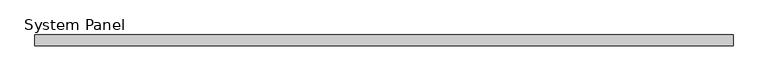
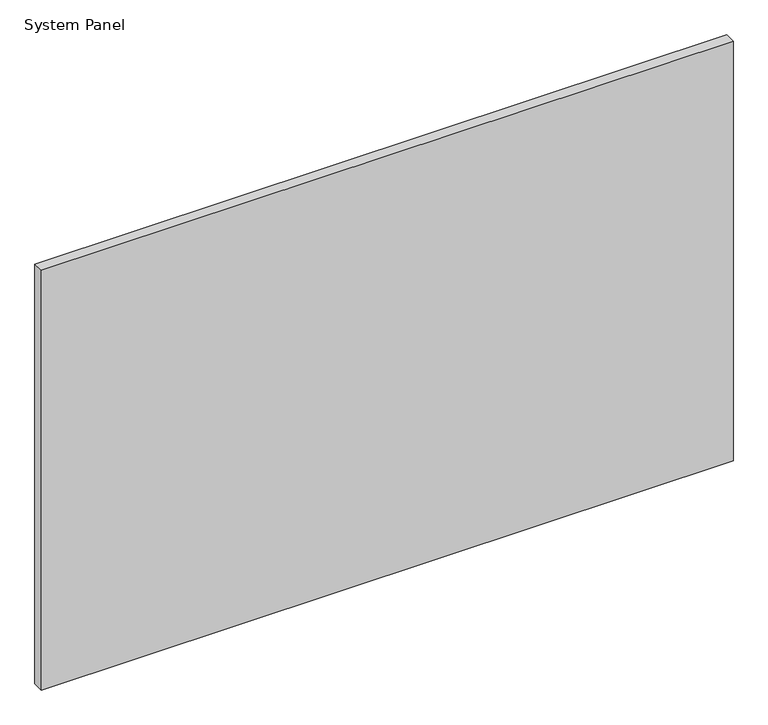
"""IFC4 building model written with IfcOpenShell, lengths in millimetres: plate geometry, System Panel : Glazed - ACMP (AL-1)."""

from ifc_helpers import new_model, si_unit, origin, origin_with_axes, place, context, project, spatial, polyline, outline, extrude, source, transform, mapped, element, save


def system_panel_8e4c9aa4(model_context):
    return source(origin(), model_context, "Body", "SweptSolid", [
        extrude(outline(polyline([(806.8516712, 0.0), (-806.8516712, 0.0), (-806.8516712, 25.4), (806.8516712, 25.4), (806.8516712, 0.0)])), origin_with_axes(), (0.0, 0.0, 1.0), 1035.050003),
    ])


if __name__ == "__main__":
    model = new_model("IFC4")
    model_context = context("Model", 3, world=origin())
    ifc_project = project(units=[si_unit("LENGTHUNIT", "METRE", prefix="MILLI")], contexts=[model_context])
    site = spatial("IfcSite", under=ifc_project)
    building = spatial("IfcBuilding", under=site)
    placement = place(None, origin())
    system_panel_shape = system_panel_8e4c9aa4(model_context)
    element("IfcPlate", 1, ObjectType="System Panel : Glazed - ACMP (AL-1)", at=placement, inside=building, context=model_context, shape_type="MappedRepresentation", body=[
        mapped(system_panel_shape, transform((0.0, 0.0, 0.0), x_axis=(1.0, 0.0, 0.0), y_axis=(0.0, 1.0, 0.0), z_axis=(0.0, 0.0, 1.0))),
    ])
    save(model, "model.ifc")
